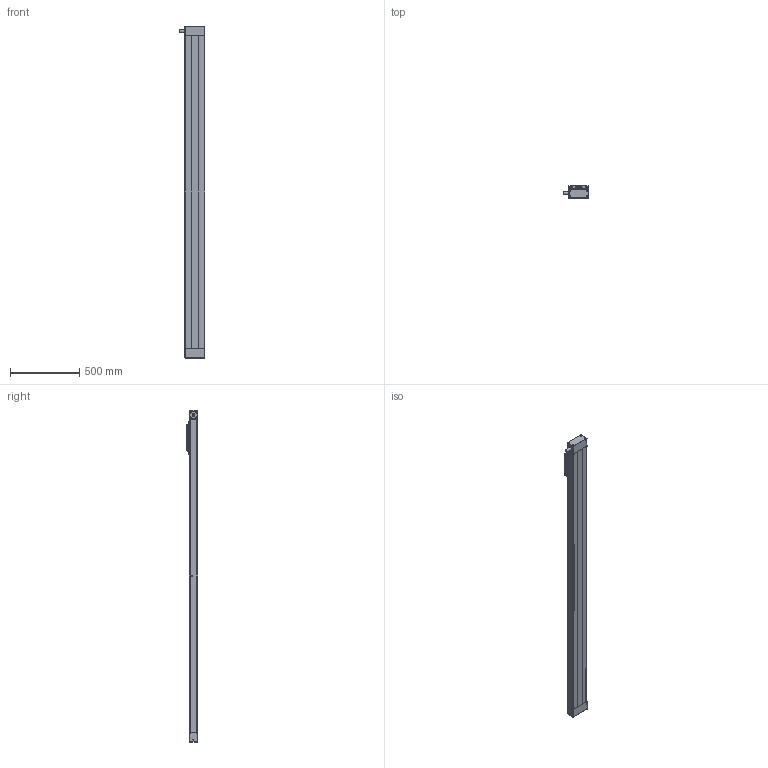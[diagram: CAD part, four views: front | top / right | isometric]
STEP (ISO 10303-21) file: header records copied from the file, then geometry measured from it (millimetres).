
FILE_DESCRIPTION(/* description */ ('STEP AP214'),/* implementation_level */ '2;1');
FILE_NAME(/* name */ 'CTJ 145 2000 L 10L 1(0)',/* time_stamp */ '2026-03-02T16:39:34+01:00',/* author */ ('License CC BY-ND 4.0'),/* organization */ ('CADENAS'),/* preprocessor_version */ 'ST-DEVELOPER v20',/* originating_system */ 'PARTsolutions',/* authorisation */ ' ');
FILE_SCHEMA (('INTEGRATED_CNC_SCHEMA','AUTOMOTIVE_DESIGN {1 0 10303 214 3 1 1}'));
Length unit declared in the file: millimetre
Products named in the file (6): CTJ 145 2000 L 10L 1(0); CTJ 145 10L_drive_block; CTJ 145 2000 L 1(0)_profil; CTJ 145_end_block; CTJ 145 L_carriage; CTJ 145 L_connection_plate
Assembly tree (5 placements, depth 2):
  CTJ 145 2000 L 10L 1(0)
    CTJ 145 10L_drive_block
    CTJ 145 2000 L 1(0)_profil
    CTJ 145_end_block
    CTJ 145 L_carriage
    CTJ 145 L_connection_plate
Bounding box: 185 x 85 x 2403 mm (x, y, z)
Volume: 20889915.6 mm3; surface area: 1459145.4 mm2
Topology: 5 solids, 5 shells, 621 faces, 1512 edges, 998 vertices
Faces by surface type: plane 447, cylinder 135, cone 23, torus 16
Full cylindrical faces by diameter (mm): 0.3 x2, 2.5 x1, 3 x4, 3.242 x1, 4.917 x24, 5 x8, 6 x14, 7.5 x2, 8 x10, 10 x8, 11 x8, 12 x12, 14 x2, 14.2 x2, 20 x1, 55 x2
Entity records: 21668 total; most frequent: CARTESIAN_POINT 2944, DIRECTION 2926, ORIENTED_EDGE 2688, EDGE_CURVE 1344, LINE 1016, VECTOR 1016, VERTEX_POINT 973, AXIS2_PLACEMENT_3D 955
